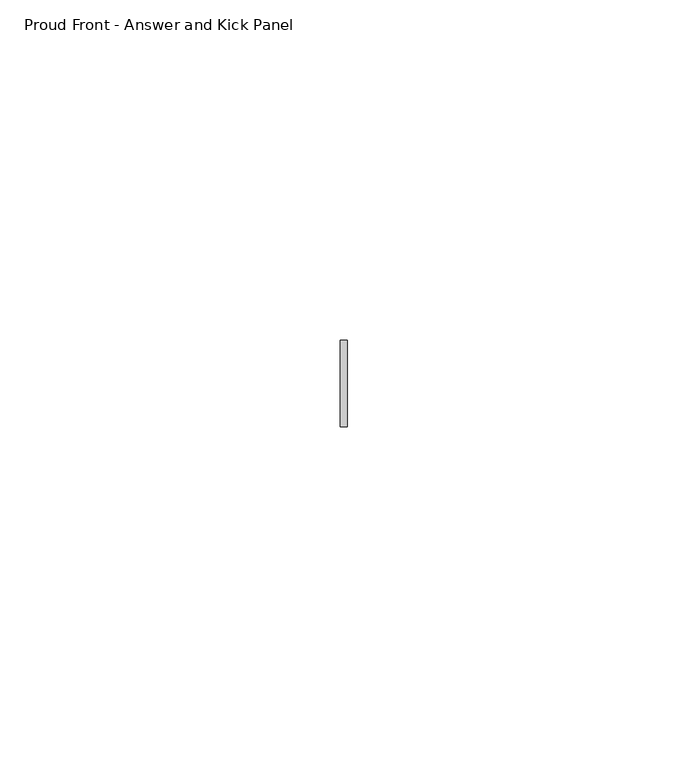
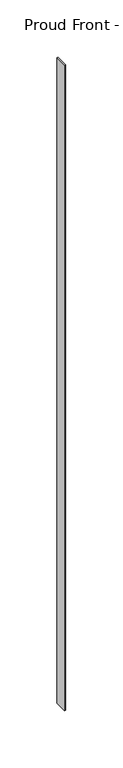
"""IFC4 building model written with IfcOpenShell, lengths in millimetres: furniture geometry, Steelcase - Universal Storage - Pedestal Filler - For Fixed Pedestal : Proud Front - Answer and Kick Panel."""

from ifc_helpers import new_model, si_unit, origin, origin_with_axes, place, context, project, spatial, polyline, outline, extrude, source, transform, mapped, element, save


def proud_front_answer_and_kick_panel_74e411db(model_context):
    return source(origin(), model_context, "Body", "SweptSolid", [
        extrude(outline(polyline([(1.016, 12.7), (1.016, 0.0), (0.0, 0.0), (0.0, 12.7), (1.016, 12.7)])), origin_with_axes(), (0.0, 0.0, 1.0), 685.8),
    ])


if __name__ == "__main__":
    model = new_model("IFC4")
    model_context = context("Model", 3, world=origin())
    ifc_project = project(units=[si_unit("LENGTHUNIT", "METRE", prefix="MILLI")], contexts=[model_context])
    site = spatial("IfcSite", under=ifc_project)
    building = spatial("IfcBuilding", under=site)
    placement = place(None, origin())
    proud_front_answer_and_kick_panel_shape = proud_front_answer_and_kick_panel_74e411db(model_context)
    element("IfcFurniture", 1, ObjectType="Steelcase - Universal Storage - Pedestal Filler - For Fixed Pedestal : Proud Front - Answer and Kick Panel", at=placement, inside=building, context=model_context, shape_type="MappedRepresentation", body=[
        mapped(proud_front_answer_and_kick_panel_shape, transform((0.0, 0.0, 0.0), x_axis=(1.0, 0.0, 0.0), y_axis=(0.0, 1.0, 0.0), z_axis=(0.0, 0.0, 1.0))),
    ])
    save(model, "model.ifc")
